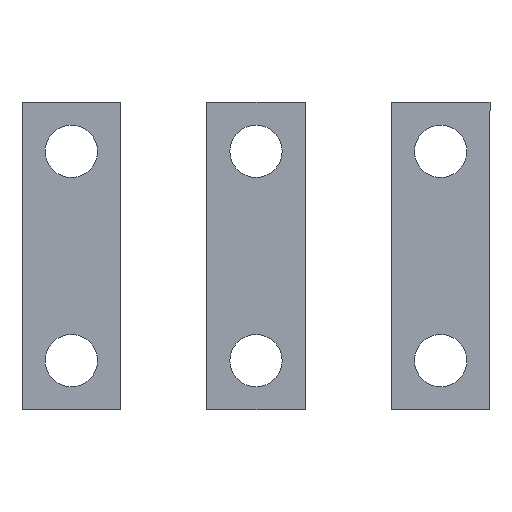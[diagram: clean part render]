
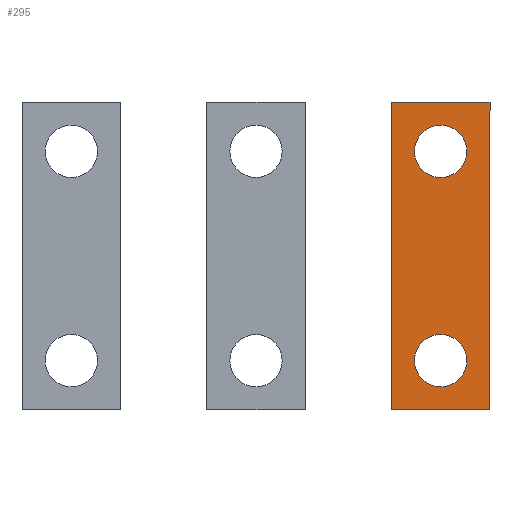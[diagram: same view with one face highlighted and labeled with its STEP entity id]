
A CAD part, front view. The second image highlights one B-rep face of the part: STEP entity #295.
In plain terms, the highlighted planar face has unit normal (0, -1, 0) as drawn and (-1, 0, 0) by its records, which use the part's own axes.
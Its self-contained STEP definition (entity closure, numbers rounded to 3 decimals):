
#7 = VECTOR ( 'NONE', #23, 1000. ) ;
#9 = DIRECTION ( 'NONE',  ( 0., 0., 1. ) ) ;
#17 = DIRECTION ( 'NONE',  ( 1., 0., 0. ) ) ;
#23 = DIRECTION ( 'NONE',  ( 0., 0., 1. ) ) ;
#26 = ORIENTED_EDGE ( 'NONE', *, *, #275, .F. ) ;
#29 = CARTESIAN_POINT ( 'NONE',  ( 0., -25., -8. ) ) ;
#31 = AXIS2_PLACEMENT_3D ( 'NONE', #242, #356, #59 ) ;
#39 = AXIS2_PLACEMENT_3D ( 'NONE', #330, #67, #281 ) ;
#45 = VECTOR ( 'NONE', #237, 1000. ) ;
#47 = DIRECTION ( 'NONE',  ( 0., 0., -1. ) ) ;
#49 = CIRCLE ( 'NONE', #209, 4.25 ) ;
#55 = EDGE_CURVE ( 'NONE', #119, #92, #134, .T. ) ;
#59 = DIRECTION ( 'NONE',  ( 0., 0., -1. ) ) ;
#63 = CARTESIAN_POINT ( 'NONE',  ( 0., -25., -8. ) ) ;
#65 = EDGE_LOOP ( 'NONE', ( #114, #377 ) ) ;
#67 = DIRECTION ( 'NONE',  ( 1., 0., 0. ) ) ;
#78 = ORIENTED_EDGE ( 'NONE', *, *, #89, .F. ) ;
#81 = EDGE_CURVE ( 'NONE', #230, #180, #49, .T. ) ;
#84 = CIRCLE ( 'NONE', #104, 4.25 ) ;
#89 = EDGE_CURVE ( 'NONE', #92, #366, #165, .T. ) ;
#91 = FACE_BOUND ( 'NONE', #147, .T. ) ;
#92 = VERTEX_POINT ( 'NONE', #173 ) ;
#94 = DIRECTION ( 'NONE',  ( 0., 1., 0. ) ) ;
#95 = ORIENTED_EDGE ( 'NONE', *, *, #81, .T. ) ;
#97 = VERTEX_POINT ( 'NONE', #207 ) ;
#104 = AXIS2_PLACEMENT_3D ( 'NONE', #300, #152, #9 ) ;
#114 = ORIENTED_EDGE ( 'NONE', *, *, #308, .T. ) ;
#119 = VERTEX_POINT ( 'NONE', #322 ) ;
#121 = CARTESIAN_POINT ( 'NONE',  ( 0., 0., 0. ) ) ;
#124 = ORIENTED_EDGE ( 'NONE', *, *, #283, .T. ) ;
#131 = AXIS2_PLACEMENT_3D ( 'NONE', #121, #240, #94 ) ;
#134 = LINE ( 'NONE', #290, #7 ) ;
#142 = DIRECTION ( 'NONE',  ( 0., 1., 0. ) ) ;
#143 = EDGE_CURVE ( 'NONE', #366, #178, #298, .T. ) ;
#147 = EDGE_LOOP ( 'NONE', ( #124, #95 ) ) ;
#150 = EDGE_LOOP ( 'NONE', ( #78, #334, #26, #238 ) ) ;
#152 = DIRECTION ( 'NONE',  ( 1., 0., 0. ) ) ;
#153 = CIRCLE ( 'NONE', #31, 4.25 ) ;
#165 = LINE ( 'NONE', #259, #45 ) ;
#169 = CARTESIAN_POINT ( 'NONE',  ( 0., -25., 8. ) ) ;
#173 = CARTESIAN_POINT ( 'NONE',  ( 0., 25., 8. ) ) ;
#178 = VERTEX_POINT ( 'NONE', #63 ) ;
#180 = VERTEX_POINT ( 'NONE', #200 ) ;
#200 = CARTESIAN_POINT ( 'NONE',  ( 0., 17., 4.25 ) ) ;
#202 = CIRCLE ( 'NONE', #39, 4.25 ) ;
#203 = EDGE_CURVE ( 'NONE', #97, #304, #153, .T. ) ;
#205 = FACE_OUTER_BOUND ( 'NONE', #150, .T. ) ;
#207 = CARTESIAN_POINT ( 'NONE',  ( 0., -17., -4.25 ) ) ;
#209 = AXIS2_PLACEMENT_3D ( 'NONE', #282, #17, #47 ) ;
#230 = VERTEX_POINT ( 'NONE', #351 ) ;
#236 = VECTOR ( 'NONE', #142, 1000. ) ;
#237 = DIRECTION ( 'NONE',  ( 0., -1., 0. ) ) ;
#238 = ORIENTED_EDGE ( 'NONE', *, *, #143, .F. ) ;
#240 = DIRECTION ( 'NONE',  ( 1., 0., 0. ) ) ;
#242 = CARTESIAN_POINT ( 'NONE',  ( 0., -17., 0. ) ) ;
#246 = CARTESIAN_POINT ( 'NONE',  ( 0., -17., 4.25 ) ) ;
#259 = CARTESIAN_POINT ( 'NONE',  ( 0., 25., 8. ) ) ;
#266 = FACE_BOUND ( 'NONE', #65, .T. ) ;
#271 = CARTESIAN_POINT ( 'NONE',  ( 0., -25., 8. ) ) ;
#275 = EDGE_CURVE ( 'NONE', #178, #119, #293, .T. ) ;
#281 = DIRECTION ( 'NONE',  ( 0., 0., 1. ) ) ;
#282 = CARTESIAN_POINT ( 'NONE',  ( 0., 17., 0. ) ) ;
#283 = EDGE_CURVE ( 'NONE', #180, #230, #84, .T. ) ;
#290 = CARTESIAN_POINT ( 'NONE',  ( 0., 25., -8. ) ) ;
#293 = LINE ( 'NONE', #29, #236 ) ;
#295 = ADVANCED_FACE ( 'NONE', ( #266, #91, #205 ), #326, .F. ) ;
#298 = LINE ( 'NONE', #169, #317 ) ;
#300 = CARTESIAN_POINT ( 'NONE',  ( 0., 17., 0. ) ) ;
#304 = VERTEX_POINT ( 'NONE', #246 ) ;
#308 = EDGE_CURVE ( 'NONE', #304, #97, #202, .T. ) ;
#317 = VECTOR ( 'NONE', #362, 1000. ) ;
#322 = CARTESIAN_POINT ( 'NONE',  ( 0., 25., -8. ) ) ;
#326 = PLANE ( 'NONE',  #131 ) ;
#330 = CARTESIAN_POINT ( 'NONE',  ( 0., -17., 0. ) ) ;
#334 = ORIENTED_EDGE ( 'NONE', *, *, #55, .F. ) ;
#351 = CARTESIAN_POINT ( 'NONE',  ( 0., 17., -4.25 ) ) ;
#356 = DIRECTION ( 'NONE',  ( 1., 0., 0. ) ) ;
#362 = DIRECTION ( 'NONE',  ( 0., 0., -1. ) ) ;
#366 = VERTEX_POINT ( 'NONE', #271 ) ;
#377 = ORIENTED_EDGE ( 'NONE', *, *, #203, .T. ) ;
